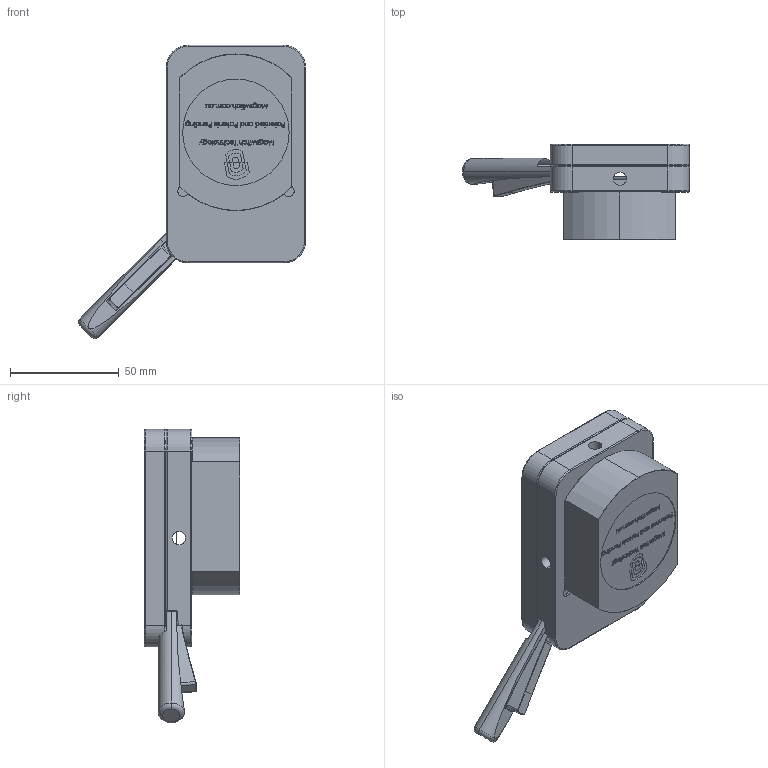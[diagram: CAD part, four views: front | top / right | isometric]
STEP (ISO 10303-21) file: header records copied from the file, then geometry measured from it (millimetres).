
FILE_DESCRIPTION (( 'STEP AP214' ), '1' );
FILE_NAME ('8000595_p.STEP', '2016-03-08T22:19:12', ( '' ), ( '' ), 'SwSTEP 2.0', 'SolidWorks 2013', '' );
FILE_SCHEMA (( 'AUTOMOTIVE_DESIGN' ));
Length unit declared in the file: millimetre
Products named in the file (1): 8000595_p
Bounding box: 104.34 x 43.9 x 134.84 mm (x, y, z)
Surface area: 41527.2 mm2 (no closed solid volume)
Topology: 0 solids, 15 shells, 939 faces, 3539 edges, 2534 vertices
Faces by surface type: plane 444, bspline 313, cylinder 102, cone 50, torus 28, sphere 2
Entity records: 65490 total; most frequent: CARTESIAN_POINT 28706, ORIENTED_EDGE 5518, DIRECTION 4193, EDGE_CURVE 3535, VERTEX_POINT 2534, VECTOR 1977, LINE 1977, AXIS2_PLACEMENT_3D 1108
